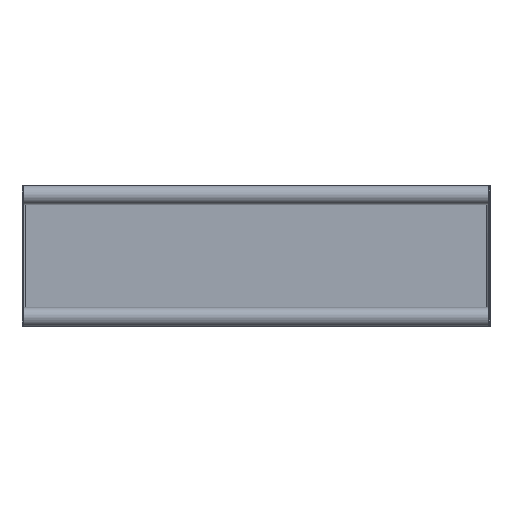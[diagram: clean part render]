
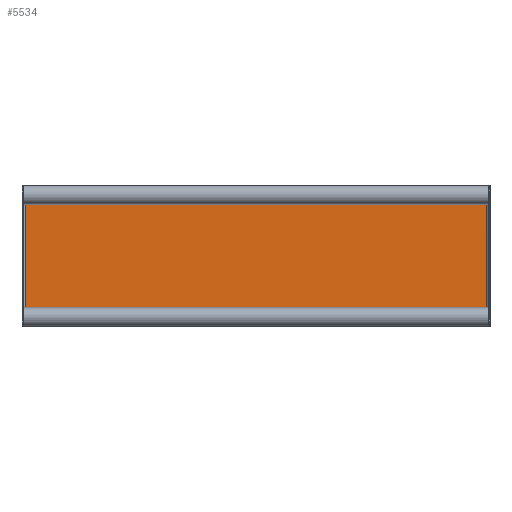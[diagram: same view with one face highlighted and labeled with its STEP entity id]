
A CAD part, front view. The second image highlights one B-rep face of the part: STEP entity #5534.
In plain terms, the highlighted planar face has unit normal (0, -1, 0).
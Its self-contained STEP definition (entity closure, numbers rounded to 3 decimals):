
#68 = AXIS2_PLACEMENT_3D ( 'NONE', #4085, #5571, #2009 ) ;
#77 = DIRECTION ( 'NONE',  ( 0., -1., 0. ) ) ;
#144 = EDGE_CURVE ( 'NONE', #6124, #2015, #1871, .T. ) ;
#163 = ORIENTED_EDGE ( 'NONE', *, *, #9558, .T. ) ;
#218 = VERTEX_POINT ( 'NONE', #3692 ) ;
#229 = DIRECTION ( 'NONE',  ( 0., 1., 0. ) ) ;
#479 = DIRECTION ( 'NONE',  ( 1., 0., 0. ) ) ;
#592 = VERTEX_POINT ( 'NONE', #1468 ) ;
#685 = CIRCLE ( 'NONE', #5583, 5. ) ;
#812 = CARTESIAN_POINT ( 'NONE',  ( -245., -2., 71. ) ) ;
#978 = AXIS2_PLACEMENT_3D ( 'NONE', #3712, #77, #2931 ) ;
#1030 = ORIENTED_EDGE ( 'NONE', *, *, #8996, .F. ) ;
#1140 = DIRECTION ( 'NONE',  ( 0., -1., 0. ) ) ;
#1253 = ORIENTED_EDGE ( 'NONE', *, *, #9013, .T. ) ;
#1266 = DIRECTION ( 'NONE',  ( 0., 0., 1. ) ) ;
#1468 = CARTESIAN_POINT ( 'NONE',  ( 246., -2., -70. ) ) ;
#1635 = ORIENTED_EDGE ( 'NONE', *, *, #5361, .F. ) ;
#1670 = DIRECTION ( 'NONE',  ( 0., 0., 1. ) ) ;
#1684 = DIRECTION ( 'NONE',  ( 0., 0., 1. ) ) ;
#1697 = CARTESIAN_POINT ( 'NONE',  ( -249., -2., -74. ) ) ;
#1752 = PLANE ( 'NONE',  #3976 ) ;
#1816 = LINE ( 'NONE', #7141, #4321 ) ;
#1871 = CIRCLE ( 'NONE', #2184, 5. ) ;
#1911 = DIRECTION ( 'NONE',  ( 1., 0., 0. ) ) ;
#1979 = CARTESIAN_POINT ( 'NONE',  ( -246., -2., 70. ) ) ;
#2009 = DIRECTION ( 'NONE',  ( 0., 0., 1. ) ) ;
#2015 = VERTEX_POINT ( 'NONE', #812 ) ;
#2184 = AXIS2_PLACEMENT_3D ( 'NONE', #4890, #1140, #4155 ) ;
#2551 = DIRECTION ( 'NONE',  ( 0., 0., 1. ) ) ;
#2723 = CARTESIAN_POINT ( 'NONE',  ( 245., -2., -71. ) ) ;
#2802 = ORIENTED_EDGE ( 'NONE', *, *, #144, .F. ) ;
#2931 = DIRECTION ( 'NONE',  ( 0., 0., 1. ) ) ;
#3065 = ORIENTED_EDGE ( 'NONE', *, *, #5441, .F. ) ;
#3221 = CIRCLE ( 'NONE', #68, 5. ) ;
#3479 = CARTESIAN_POINT ( 'NONE',  ( -246., -2., -74. ) ) ;
#3692 = CARTESIAN_POINT ( 'NONE',  ( -246., -2., -70. ) ) ;
#3712 = CARTESIAN_POINT ( 'NONE',  ( 249., -2., -74. ) ) ;
#3976 = AXIS2_PLACEMENT_3D ( 'NONE', #1697, #229, #2551 ) ;
#4085 = CARTESIAN_POINT ( 'NONE',  ( -249., -2., -74. ) ) ;
#4155 = DIRECTION ( 'NONE',  ( 0., 0., 1. ) ) ;
#4321 = VECTOR ( 'NONE', #1911, 1000. ) ;
#4890 = CARTESIAN_POINT ( 'NONE',  ( -249., -2., 74. ) ) ;
#4912 = LINE ( 'NONE', #8660, #7469 ) ;
#5361 = EDGE_CURVE ( 'NONE', #218, #6124, #5847, .T. ) ;
#5441 = EDGE_CURVE ( 'NONE', #592, #6157, #9471, .T. ) ;
#5534 = ADVANCED_FACE ( 'NONE', ( #9674 ), #1752, .F. ) ;
#5571 = DIRECTION ( 'NONE',  ( 0., -1., 0. ) ) ;
#5583 = AXIS2_PLACEMENT_3D ( 'NONE', #8536, #7655, #1684 ) ;
#5847 = LINE ( 'NONE', #3479, #7432 ) ;
#6094 = CARTESIAN_POINT ( 'NONE',  ( 246., -2., 70. ) ) ;
#6124 = VERTEX_POINT ( 'NONE', #1979 ) ;
#6157 = VERTEX_POINT ( 'NONE', #2723 ) ;
#6396 = LINE ( 'NONE', #8656, #7479 ) ;
#7141 = CARTESIAN_POINT ( 'NONE',  ( -249., -2., 71. ) ) ;
#7228 = EDGE_LOOP ( 'NONE', ( #3065, #163, #9597, #1030, #2802, #1635, #8410, #1253 ) ) ;
#7264 = CARTESIAN_POINT ( 'NONE',  ( -245., -2., -71. ) ) ;
#7432 = VECTOR ( 'NONE', #1266, 1000. ) ;
#7469 = VECTOR ( 'NONE', #479, 1000. ) ;
#7479 = VECTOR ( 'NONE', #1670, 1000. ) ;
#7655 = DIRECTION ( 'NONE',  ( 0., -1., 0. ) ) ;
#7813 = EDGE_CURVE ( 'NONE', #7964, #8206, #685, .T. ) ;
#7964 = VERTEX_POINT ( 'NONE', #9641 ) ;
#8206 = VERTEX_POINT ( 'NONE', #6094 ) ;
#8410 = ORIENTED_EDGE ( 'NONE', *, *, #9036, .F. ) ;
#8536 = CARTESIAN_POINT ( 'NONE',  ( 249., -2., 74. ) ) ;
#8622 = VERTEX_POINT ( 'NONE', #7264 ) ;
#8656 = CARTESIAN_POINT ( 'NONE',  ( 246., -2., -74. ) ) ;
#8660 = CARTESIAN_POINT ( 'NONE',  ( -249., -2., -71. ) ) ;
#8996 = EDGE_CURVE ( 'NONE', #2015, #7964, #1816, .T. ) ;
#9013 = EDGE_CURVE ( 'NONE', #8622, #6157, #4912, .T. ) ;
#9036 = EDGE_CURVE ( 'NONE', #8622, #218, #3221, .T. ) ;
#9471 = CIRCLE ( 'NONE', #978, 5. ) ;
#9558 = EDGE_CURVE ( 'NONE', #592, #8206, #6396, .T. ) ;
#9597 = ORIENTED_EDGE ( 'NONE', *, *, #7813, .F. ) ;
#9641 = CARTESIAN_POINT ( 'NONE',  ( 245., -2., 71. ) ) ;
#9674 = FACE_OUTER_BOUND ( 'NONE', #7228, .T. ) ;
